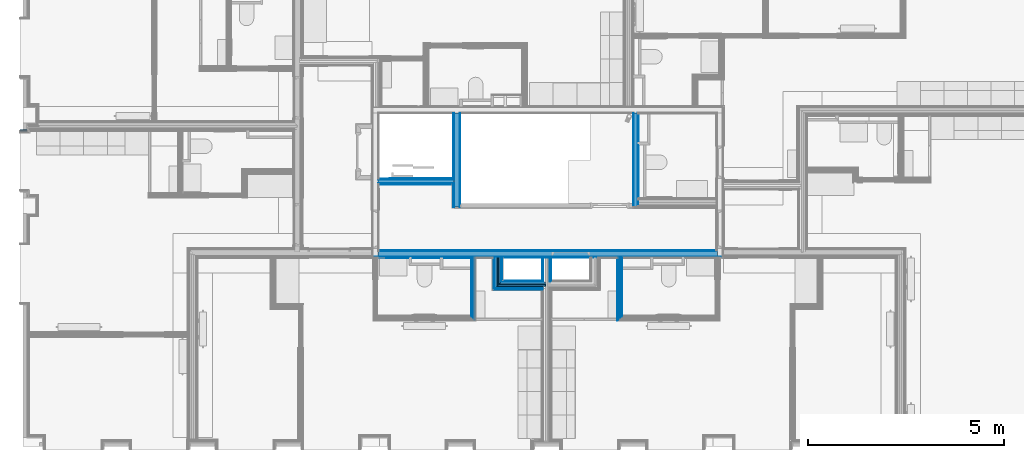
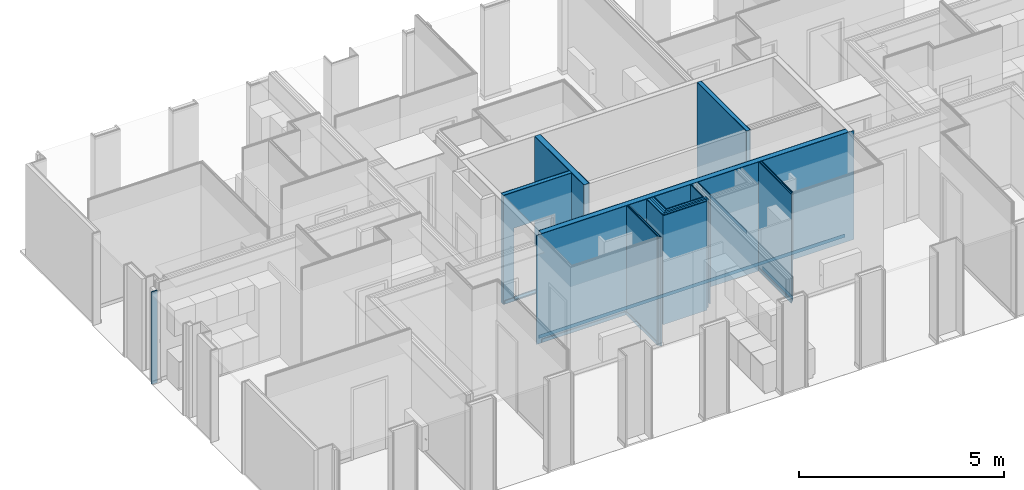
# One storey, part 12 of 64: 49 building element parts, 1 opening, 10 elements without a shape of their own.
"""IFC2X3 building model written with IfcOpenShell, lengths in metres."""

from ifc_helpers import new_model, entity, si_unit, converted_unit, derived_unit, money_unit, direction, frame, frame_2d, origin_with_axes, place, context, subcontext, project, spatial, polyline, rectangle, outline, extrude, material, type_object, element, aggregate, save


model = new_model("IFC2X3")

# Units and contexts
model_context = context("Model", 3, precision=1e-05, world=origin_with_axes(), true_north=direction((0.0, 1.0)))
body_context = subcontext(model_context, "Body", "Model", "MODEL_VIEW", scale=1.0)
ifc_project = project(units=[si_unit("LENGTHUNIT", "METRE"), si_unit("AREAUNIT", "SQUARE_METRE"), si_unit("VOLUMEUNIT", "CUBIC_METRE"), si_unit("ABSORBEDDOSEUNIT", "GRAY"), si_unit("AMOUNTOFSUBSTANCEUNIT", "MOLE"), si_unit("DOSEEQUIVALENTUNIT", "SIEVERT"), si_unit("ELECTRICCAPACITANCEUNIT", "FARAD"), si_unit("ELECTRICCHARGEUNIT", "COULOMB"), si_unit("ELECTRICCONDUCTANCEUNIT", "SIEMENS"), si_unit("ELECTRICCURRENTUNIT", "AMPERE"), si_unit("ELECTRICRESISTANCEUNIT", "OHM"), si_unit("ELECTRICVOLTAGEUNIT", "VOLT"), si_unit("ENERGYUNIT", "JOULE"), si_unit("FORCEUNIT", "NEWTON"), si_unit("FREQUENCYUNIT", "HERTZ"), si_unit("ILLUMINANCEUNIT", "LUX"), si_unit("INDUCTANCEUNIT", "HENRY"), si_unit("LUMINOUSFLUXUNIT", "LUMEN"), si_unit("LUMINOUSINTENSITYUNIT", "CANDELA"), si_unit("MAGNETICFLUXDENSITYUNIT", "TESLA"), si_unit("MAGNETICFLUXUNIT", "WEBER"), si_unit("MASSUNIT", "GRAM"), converted_unit("PLANEANGLEUNIT", "degree", entity("IfcReal", 0.0174532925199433), si_unit("PLANEANGLEUNIT", "RADIAN"), dimensions=[0, 0, 0, 0, 0, 0, 0]), si_unit("POWERUNIT", "WATT"), si_unit("PRESSUREUNIT", "PASCAL"), si_unit("RADIOACTIVITYUNIT", "BECQUEREL"), si_unit("SOLIDANGLEUNIT", "STERADIAN"), si_unit("THERMODYNAMICTEMPERATUREUNIT", "KELVIN"), si_unit("TIMEUNIT", "SECOND"), derived_unit("ACCELERATIONUNIT", [(si_unit("LENGTHUNIT", "METRE"), 1), (si_unit("TIMEUNIT", "SECOND"), -2)]), derived_unit("ANGULARVELOCITYUNIT", [(converted_unit("PLANEANGLEUNIT", "degree", entity("IfcReal", 0.0174532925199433), si_unit("PLANEANGLEUNIT", "RADIAN"), dimensions=[0, 0, 0, 0, 0, 0, 0]), 1), (si_unit("TIMEUNIT", "SECOND"), -1)]), derived_unit("CURVATUREUNIT", [(converted_unit("PLANEANGLEUNIT", "degree", entity("IfcReal", 0.0174532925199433), si_unit("PLANEANGLEUNIT", "RADIAN"), dimensions=[0, 0, 0, 0, 0, 0, 0]), 1), (si_unit("LENGTHUNIT", "METRE"), -1)]), derived_unit("DYNAMICVISCOSITYUNIT", [(si_unit("PRESSUREUNIT", "PASCAL"), 1), (si_unit("TIMEUNIT", "SECOND"), 1)]), derived_unit("HEATFLUXDENSITYUNIT", [(si_unit("POWERUNIT", "WATT"), 1), (si_unit("LENGTHUNIT", "METRE"), -2)]), derived_unit("HEATINGVALUEUNIT", [(si_unit("ENERGYUNIT", "JOULE"), 1), (si_unit("MASSUNIT", "GRAM"), -1)]), derived_unit("INTEGERCOUNTRATEUNIT", [(si_unit("TIMEUNIT", "SECOND"), -1)]), derived_unit("IONCONCENTRATIONUNIT", [(si_unit("MASSUNIT", "GRAM"), 1), (si_unit("VOLUMEUNIT", "CUBIC_METRE"), -1)]), derived_unit("ISOTHERMALMOISTURECAPACITYUNIT", [(si_unit("VOLUMEUNIT", "CUBIC_METRE"), 1), (si_unit("MASSUNIT", "GRAM"), -1)]), derived_unit("KINEMATICVISCOSITYUNIT", [(si_unit("AREAUNIT", "SQUARE_METRE"), 1), (si_unit("TIMEUNIT", "SECOND"), -1)]), derived_unit("LINEARFORCEUNIT", [(si_unit("FORCEUNIT", "NEWTON"), 1), (si_unit("LENGTHUNIT", "METRE"), -1)]), derived_unit("LINEARMOMENTUNIT", [(si_unit("FORCEUNIT", "NEWTON"), 1), (si_unit("LENGTHUNIT", "METRE"), -1)]), derived_unit("LINEARSTIFFNESSUNIT", [(si_unit("FORCEUNIT", "NEWTON"), 1), (si_unit("LENGTHUNIT", "METRE"), -1)]), derived_unit("LINEARVELOCITYUNIT", [(si_unit("LENGTHUNIT", "METRE"), 1), (si_unit("TIMEUNIT", "SECOND"), -1)]), derived_unit("LUMINOUSINTENSITYDISTRIBUTIONUNIT", [(si_unit("LUMINOUSINTENSITYUNIT", "CANDELA"), 1), (si_unit("LUMINOUSFLUXUNIT", "LUMEN"), -1)]), derived_unit("MASSDENSITYUNIT", [(si_unit("MASSUNIT", "GRAM"), 1), (si_unit("VOLUMEUNIT", "CUBIC_METRE"), -1)]), derived_unit("MASSFLOWRATEUNIT", [(si_unit("MASSUNIT", "GRAM"), 1), (si_unit("TIMEUNIT", "SECOND"), -1)]), derived_unit("MASSPERLENGTHUNIT", [(si_unit("MASSUNIT", "GRAM"), 1), (si_unit("LENGTHUNIT", "METRE"), -1)]), derived_unit("MODULUSOFELASTICITYUNIT", [(si_unit("FORCEUNIT", "NEWTON"), 1), (si_unit("AREAUNIT", "SQUARE_METRE"), -1)]), derived_unit("MODULUSOFLINEARSUBGRADEREACTIONUNIT", [(si_unit("FORCEUNIT", "NEWTON"), 1), (si_unit("LENGTHUNIT", "METRE"), -2)]), derived_unit("MODULUSOFROTATIONALSUBGRADEREACTIONUNIT", [(si_unit("FORCEUNIT", "NEWTON"), 1), (si_unit("LENGTHUNIT", "METRE"), 1)]), derived_unit("MODULUSOFSUBGRADEREACTIONUNIT", [(si_unit("FORCEUNIT", "NEWTON"), 1), (si_unit("VOLUMEUNIT", "CUBIC_METRE"), -1)]), derived_unit("MOISTUREDIFFUSIVITYUNIT", [(si_unit("VOLUMEUNIT", "CUBIC_METRE"), 1), (si_unit("TIMEUNIT", "SECOND"), -1)]), derived_unit("MOLECULARWEIGHTUNIT", [(si_unit("MASSUNIT", "GRAM"), 1), (si_unit("AMOUNTOFSUBSTANCEUNIT", "MOLE"), -1)]), derived_unit("PLANARFORCEUNIT", [(si_unit("FORCEUNIT", "NEWTON"), 1), (si_unit("LENGTHUNIT", "METRE"), -2)]), derived_unit("ROTATIONALFREQUENCYUNIT", [(si_unit("TIMEUNIT", "SECOND"), -1)]), derived_unit("ROTATIONALMASSUNIT", [(si_unit("MASSUNIT", "GRAM"), 1), (si_unit("LENGTHUNIT", "METRE"), 2)]), derived_unit("ROTATIONALSTIFFNESSUNIT", [(si_unit("FORCEUNIT", "NEWTON"), 1), (si_unit("LENGTHUNIT", "METRE"), 1), (converted_unit("PLANEANGLEUNIT", "degree", entity("IfcReal", 0.0174532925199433), si_unit("PLANEANGLEUNIT", "RADIAN"), dimensions=[0, 0, 0, 0, 0, 0, 0]), -1)]), derived_unit("SECTIONAREAINTEGRALUNIT", [(si_unit("LENGTHUNIT", "METRE"), 5)]), derived_unit("SECTIONMODULUSUNIT", [(si_unit("LENGTHUNIT", "METRE"), 3)]), derived_unit("SHEARMODULUSUNIT", [(si_unit("FORCEUNIT", "NEWTON"), 1), (si_unit("AREAUNIT", "SQUARE_METRE"), -1)]), derived_unit("SOUNDPOWERUNIT", [(si_unit("ENERGYUNIT", "JOULE"), 1), (si_unit("TIMEUNIT", "SECOND"), -1)]), derived_unit("SPECIFICHEATCAPACITYUNIT", [(si_unit("FORCEUNIT", "NEWTON"), 1), (si_unit("MASSUNIT", "GRAM"), -1), (si_unit("THERMODYNAMICTEMPERATUREUNIT", "KELVIN"), -1)]), derived_unit("TEMPERATUREGRADIENTUNIT", [(si_unit("THERMODYNAMICTEMPERATUREUNIT", "KELVIN"), 1), (si_unit("LENGTHUNIT", "METRE"), -1)]), derived_unit("THERMALADMITTANCEUNIT", [(si_unit("POWERUNIT", "WATT"), 1), (si_unit("AREAUNIT", "SQUARE_METRE"), -1), (si_unit("THERMODYNAMICTEMPERATUREUNIT", "KELVIN"), -1)]), derived_unit("THERMALCONDUCTANCEUNIT", [(si_unit("POWERUNIT", "WATT"), 1), (si_unit("LENGTHUNIT", "METRE"), -1), (si_unit("THERMODYNAMICTEMPERATUREUNIT", "KELVIN"), -1)]), derived_unit("THERMALEXPANSIONCOEFFICIENTUNIT", [(si_unit("THERMODYNAMICTEMPERATUREUNIT", "KELVIN"), -1)]), derived_unit("THERMALRESISTANCEUNIT", [(si_unit("AREAUNIT", "SQUARE_METRE"), 1), (si_unit("POWERUNIT", "WATT"), -1)]), derived_unit("THERMALTRANSMITTANCEUNIT", [(si_unit("POWERUNIT", "WATT"), 1), (si_unit("AREAUNIT", "SQUARE_METRE"), -1), (si_unit("THERMODYNAMICTEMPERATUREUNIT", "KELVIN"), -1)]), derived_unit("TORQUEUNIT", [(si_unit("FORCEUNIT", "NEWTON"), 1), (si_unit("LENGTHUNIT", "METRE"), 1)]), derived_unit("VAPORPERMEABILITYUNIT", [(si_unit("MASSUNIT", "GRAM"), 1), (si_unit("TIMEUNIT", "SECOND"), -1)]), derived_unit("VOLUMETRICFLOWRATEUNIT", [(si_unit("VOLUMEUNIT", "CUBIC_METRE"), 1), (si_unit("TIMEUNIT", "SECOND"), -1)]), derived_unit("WARPINGCONSTANTUNIT", [(si_unit("LENGTHUNIT", "METRE"), 6)]), derived_unit("WARPINGMOMENTUNIT", [(si_unit("FORCEUNIT", "NEWTON"), 1), (si_unit("LENGTHUNIT", "METRE"), 2)]), money_unit("GBP")], contexts=[model_context])

# Site, building, storey
site_placement = place(None, origin_with_axes())
site = spatial("IfcSite", under=ifc_project, at=site_placement, Name="Site", CompositionType="ELEMENT")
building_placement = place(site_placement, origin_with_axes())
building = spatial("IfcBuilding", under=site, at=building_placement, Name="Building01", CompositionType="ELEMENT")
storey_placement = place(building_placement, frame((0.0, 0.0, 8.64), z_axis=(0.0, 0.0, 1.0), x_axis=(1.0, 0.0, 0.0)))
storey = spatial("IfcBuildingStorey", under=building, at=storey_placement, Name="2F", CompositionType="ELEMENT", Elevation=8.64)

# Wall, opening, building element parts
wall_type_1 = type_object("IfcWallType", Name="SHE_A-Walls_Type04a_BlockworkWall_130mm", PredefinedType="NOTDEFINED")
wall_1_placement = place(storey_placement, frame((11.145, 6.965, 0.0), z_axis=(0.0, 0.0, 1.0), x_axis=(-1.0, 0.0, 0.0)))
wall_1 = element("IfcWall", 1, at=wall_1_placement, inside=storey, type_object=wall_type_1, Name="4A", ObjectType="SHE_A-Walls_Type04a_BlockworkWall_130mm")
opening_placement = place(wall_1_placement, frame((0.5, -0.03, 0.03), z_axis=(0.0, 0.0, 1.0), x_axis=(1.0, 0.0, 0.0)))
element("IfcOpeningElement", 2, at=opening_placement, cuts=wall_1, Name="Opening", ObjectType="Opening", context=body_context, shape_type="SweptSolid", body=[
    extrude(rectangle(XDim=1.133302, YDim=2.14, at=frame_2d((-0.566651, 1.07), x_axis=(-1.0, 0.0))), frame((0.0, 0.0, 0.0), z_axis=(0.0, 1.0, 0.0), x_axis=(-1.0, 0.0, 0.0)), (0.0, 0.0, 1.0), 0.16),
])
ifc_material_1 = material(Name="A_BSUK_Walls_Timber")
placement_1 = place(wall_1_placement, origin_with_axes())
building_element_part_1 = element("IfcBuildingElementPart", 3, at=placement_1, material=ifc_material_1, Name="1", context=body_context, shape_type="SweptSolid", body=[
    extrude(outline(polyline([(0.0, -0.015), (0.015, -0.03), (1.633302, -0.03), (1.633302, -0.015), (0.0, -0.015)])), frame((0.0, 0.0, 0.015), z_axis=(0.0, 0.0, 1.0), x_axis=(1.0, 0.0, 0.0)), (0.0, 0.0, 1.0), 0.1),
])
ifc_material_2 = material(Name="A_BSUK_WallInternal_Finishes_Plasterboard")
building_element_part_2 = element("IfcBuildingElementPart", 4, at=placement_1, material=ifc_material_2, Name="2", context=body_context, shape_type="SweptSolid", body=[
    extrude(outline(polyline([(1.93, 0.0), (0.0, 0.0), (0.015, -0.015), (1.93, -0.015), (1.93, 0.0)])), origin_with_axes(), (0.0, 0.0, 1.0), 3.24),
])
ifc_material_3 = material(Name="A_BSUK_WallsInternal_Block")
building_element_part_3 = element("IfcBuildingElementPart", 5, at=placement_1, material=ifc_material_3, Name="3", context=body_context, shape_type="SweptSolid", body=[
    extrude(rectangle(XDim=1.93, YDim=0.1, at=frame_2d((0.965, 0.05), x_axis=(-1.0, 0.0))), origin_with_axes(), (0.0, 0.0, 1.0), 3.24),
])
ifc_material_4 = material(Name="A_BSUK_WallInternal_Finishes_Plaster")
building_element_part_4 = element("IfcBuildingElementPart", 6, at=placement_1, material=ifc_material_4, Name="4", context=body_context, shape_type="SweptSolid", body=[
    extrude(outline(polyline([(1.93, 0.115), (0.015, 0.115), (0.0, 0.1), (1.93, 0.1), (1.93, 0.115)])), origin_with_axes(), (0.0, 0.0, 1.0), 3.24),
])
building_element_part_5 = element("IfcBuildingElementPart", 7, at=placement_1, material=ifc_material_1, Name="5", context=body_context, shape_type="SweptSolid", body=[
    extrude(outline(polyline([(1.9, 0.13), (0.03, 0.13), (0.015, 0.115), (1.9, 0.115), (1.9, 0.13)])), frame((0.0, 0.0, 0.015), z_axis=(0.0, 0.0, 1.0), x_axis=(1.0, 0.0, 0.0)), (0.0, 0.0, 1.0), 0.1),
])
aggregate(wall_1, [building_element_part_1, building_element_part_2, building_element_part_3, building_element_part_4, building_element_part_5])

# Wall, building element parts
wall_type_2 = type_object("IfcWallType", Name="SHE_A-Walls_Type03a_BlockworkWall_170mm", PredefinedType="NOTDEFINED")
wall_2_placement = place(storey_placement, frame((11.145, 6.263, 0.0), z_axis=(0.0, 0.0, 1.0), x_axis=(0.0, 1.0, 0.0)))
wall_2 = element("IfcWall", 8, at=wall_2_placement, inside=storey, type_object=wall_type_2, Name="4B", ObjectType="SHE_A-Walls_Type03a_BlockworkWall_170mm")
placement_2 = place(wall_2_placement, origin_with_axes())
building_element_part_6 = element("IfcBuildingElementPart", 9, at=placement_2, material=ifc_material_2, Name="2", context=body_context, shape_type="SweptSolid", body=[
    extrude(rectangle(XDim=2.387, YDim=0.015, at=frame_2d((1.1935, -0.1475), x_axis=(-1.0, 0.0))), origin_with_axes(), (0.0, 0.0, 1.0), 3.24),
])
building_element_part_7 = element("IfcBuildingElementPart", 10, at=placement_2, material=ifc_material_3, Name="3", context=body_context, shape_type="SweptSolid", body=[
    extrude(rectangle(XDim=2.402, YDim=0.14, at=frame_2d((1.201, -0.07), x_axis=(-1.0, 0.0))), origin_with_axes(), (0.0, 0.0, 1.0), 3.24),
])
building_element_part_8 = element("IfcBuildingElementPart", 11, at=placement_2, material=ifc_material_4, Name="4", context=body_context, shape_type="SweptSolid", body=[
    extrude(outline(polyline([(0.587, 0.015), (0.0, 0.015), (0.0, 0.0), (0.602, 0.0), (0.587, 0.015)])), origin_with_axes(), (0.0, 0.0, 1.0), 3.24),
])
building_element_part_9 = element("IfcBuildingElementPart", 12, at=placement_2, material=ifc_material_4, Name="5", context=body_context, shape_type="SweptSolid", body=[
    extrude(outline(polyline([(2.387, 0.015), (0.717, 0.015), (0.702, 0.0), (2.387, 0.0), (2.387, 0.015)])), origin_with_axes(), (0.0, 0.0, 1.0), 3.24),
])
aggregate(wall_2, [building_element_part_6, building_element_part_7, building_element_part_8, building_element_part_9])

wall_type_3 = type_object("IfcWallType", Name="SHE_A-Walls_Type01c_Partywall_225mm_twin_tall", PredefinedType="NOTDEFINED")
wall_3_placement = place(storey_placement, frame((12.288, 4.302428, 0.0), z_axis=(0.0, 0.0, 1.0), x_axis=(1.0, 0.0, 0.0)))
wall_3 = element("IfcWall", 13, at=wall_3_placement, inside=storey, type_object=wall_type_3, Name="1C", ObjectType="SHE_A-Walls_Type01c_Partywall_225mm_twin_tall")
placement_3 = place(wall_3_placement, origin_with_axes())
building_element_part_10 = element("IfcBuildingElementPart", 14, at=placement_3, material=ifc_material_2, Name="2", context=body_context, shape_type="SweptSolid", body=[
    extrude(outline(polyline([(1.0995, -0.123), (-0.123, -0.123), (-0.138, -0.138), (1.0995, -0.138), (1.0995, -0.123)])), origin_with_axes(), (0.0, 0.0, 1.0), 3.24),
])
building_element_part_11 = element("IfcBuildingElementPart", 15, at=placement_3, material=ifc_material_2, Name="3", context=body_context, shape_type="SweptSolid", body=[
    extrude(outline(polyline([(1.1145, -0.108), (-0.108, -0.108), (-0.123, -0.123), (1.1145, -0.123), (1.1145, -0.108)])), origin_with_axes(), (0.0, 0.0, 1.0), 3.24),
])
ifc_material_5 = material(Name="Air Cavity")
building_element_part_12 = element("IfcBuildingElementPart", 16, at=placement_3, material=ifc_material_5, Name="4", context=body_context, shape_type="SweptSolid", body=[
    extrude(outline(polyline([(1.1145, -0.05), (-0.05, -0.05), (-0.108, -0.108), (1.1145, -0.108), (1.1145, -0.05)])), origin_with_axes(), (0.0, 0.0, 1.0), 3.24),
])
ifc_material_6 = material(Name="A_BSUK_Insulation")
building_element_part_13 = element("IfcBuildingElementPart", 17, at=placement_3, material=ifc_material_6, Name="5", context=body_context, shape_type="SweptSolid", body=[
    extrude(outline(polyline([(1.1875, 0.0), (0.0, 0.0), (-0.05, -0.05), (1.1875, -0.05), (1.1875, 0.0)])), origin_with_axes(), (0.0, 0.0, 1.0), 3.24),
])
building_element_part_14 = element("IfcBuildingElementPart", 18, at=placement_3, material=ifc_material_5, Name="6", context=body_context, shape_type="SweptSolid", body=[
    extrude(outline(polyline([(1.1875, 0.057), (0.057, 0.057), (0.0, 0.0), (1.1875, 0.0), (1.1875, 0.057)])), origin_with_axes(), (0.0, 0.0, 1.0), 3.24),
])
building_element_part_15 = element("IfcBuildingElementPart", 19, at=placement_3, material=ifc_material_2, Name="7", context=body_context, shape_type="SweptSolid", body=[
    extrude(outline(polyline([(1.1145, 0.072), (0.072, 0.072), (0.057, 0.057), (1.1145, 0.057), (1.1145, 0.072)])), origin_with_axes(), (0.0, 0.0, 1.0), 3.24),
])
building_element_part_16 = element("IfcBuildingElementPart", 20, at=placement_3, material=ifc_material_2, Name="8", context=body_context, shape_type="SweptSolid", body=[
    extrude(outline(polyline([(1.1145, 0.087), (0.087, 0.087), (0.072, 0.072), (1.1145, 0.072), (1.1145, 0.087)])), origin_with_axes(), (0.0, 0.0, 1.0), 3.24),
])
aggregate(wall_3, [building_element_part_10, building_element_part_11, building_element_part_12, building_element_part_13, building_element_part_14, building_element_part_15, building_element_part_16])

wall_4_placement = place(storey_placement, frame((13.5005, 4.995, 0.0), z_axis=(0.0, 0.0, 1.0), x_axis=(0.0, -1.0, 0.0)))
wall_4 = element("IfcWall", 21, at=wall_4_placement, inside=storey, type_object=wall_type_3, Name="1C", ObjectType="SHE_A-Walls_Type01c_Partywall_225mm_twin_tall")
placement_4 = place(wall_4_placement, origin_with_axes())
building_element_part_17 = element("IfcBuildingElementPart", 22, at=placement_4, material=ifc_material_2, Name="2", context=body_context, shape_type="SweptSolid", body=[
    extrude(rectangle(XDim=0.590572, YDim=0.015, at=frame_2d((0.310286, -0.1055), x_axis=(-1.0, 0.0))), origin_with_axes(), (0.0, 0.0, 1.0), 3.24),
])
building_element_part_18 = element("IfcBuildingElementPart", 23, at=placement_4, material=ifc_material_2, Name="4", context=body_context, shape_type="SweptSolid", body=[
    extrude(rectangle(XDim=0.620572, YDim=0.015, at=frame_2d((0.325286, -0.0905), x_axis=(-1.0, 0.0))), origin_with_axes(), (0.0, 0.0, 1.0), 3.24),
])
building_element_part_19 = element("IfcBuildingElementPart", 24, at=placement_4, material=ifc_material_2, Name="9", context=body_context, shape_type="SweptSolid", body=[
    extrude(rectangle(XDim=0.620572, YDim=0.015, at=frame_2d((0.325286, 0.0895), x_axis=(-1.0, 0.0))), origin_with_axes(), (0.0, 0.0, 1.0), 3.24),
])
building_element_part_20 = element("IfcBuildingElementPart", 25, at=placement_4, material=ifc_material_2, Name="11", context=body_context, shape_type="SweptSolid", body=[
    extrude(rectangle(XDim=0.590572, YDim=0.015, at=frame_2d((0.310286, 0.1045), x_axis=(-1.0, 0.0))), origin_with_axes(), (0.0, 0.0, 1.0), 3.24),
])
aggregate(wall_4, [building_element_part_17, building_element_part_18, building_element_part_19, building_element_part_20])

wall_5_placement = place(storey_placement, frame((12.288, 4.98, 0.0), z_axis=(0.0, 0.0, 1.0), x_axis=(0.0, -1.0, 0.0)))
wall_5 = element("IfcWall", 26, at=wall_5_placement, inside=storey, type_object=wall_type_3, Name="1C", ObjectType="SHE_A-Walls_Type01c_Partywall_225mm_twin_tall")
placement_5 = place(wall_5_placement, origin_with_axes())
building_element_part_21 = element("IfcBuildingElementPart", 27, at=placement_5, material=ifc_material_2, Name="3", context=body_context, shape_type="SweptSolid", body=[
    extrude(outline(polyline([(0.800572, -0.123), (0.0, -0.123), (0.0, -0.138), (0.815572, -0.138), (0.800572, -0.123)])), origin_with_axes(), (0.0, 0.0, 1.0), 3.24),
])
building_element_part_22 = element("IfcBuildingElementPart", 28, at=placement_5, material=ifc_material_2, Name="4", context=body_context, shape_type="SweptSolid", body=[
    extrude(outline(polyline([(0.785572, -0.108), (0.0, -0.108), (0.0, -0.123), (0.800572, -0.123), (0.785572, -0.108)])), origin_with_axes(), (0.0, 0.0, 1.0), 3.24),
])
building_element_part_23 = element("IfcBuildingElementPart", 29, at=placement_5, material=ifc_material_5, Name="5", context=body_context, shape_type="SweptSolid", body=[
    extrude(outline(polyline([(0.727572, -0.05), (0.0, -0.05), (0.0, -0.108), (0.785572, -0.108), (0.727572, -0.05)])), origin_with_axes(), (0.0, 0.0, 1.0), 3.24),
])
building_element_part_24 = element("IfcBuildingElementPart", 30, at=placement_5, material=ifc_material_6, Name="6", context=body_context, shape_type="SweptSolid", body=[
    extrude(outline(polyline([(0.677572, 0.0), (0.0, 0.0), (0.0, -0.05), (0.727572, -0.05), (0.677572, 0.0)])), origin_with_axes(), (0.0, 0.0, 1.0), 3.24),
])
building_element_part_25 = element("IfcBuildingElementPart", 31, at=placement_5, material=ifc_material_5, Name="7", context=body_context, shape_type="SweptSolid", body=[
    extrude(outline(polyline([(0.620572, 0.057), (0.0, 0.057), (0.0, 0.0), (0.677572, 0.0), (0.620572, 0.057)])), origin_with_axes(), (0.0, 0.0, 1.0), 3.24),
])
building_element_part_26 = element("IfcBuildingElementPart", 32, at=placement_5, material=ifc_material_2, Name="8", context=body_context, shape_type="SweptSolid", body=[
    extrude(outline(polyline([(0.605572, 0.072), (0.0, 0.072), (0.0, 0.057), (0.620572, 0.057), (0.605572, 0.072)])), origin_with_axes(), (0.0, 0.0, 1.0), 3.24),
])
building_element_part_27 = element("IfcBuildingElementPart", 33, at=placement_5, material=ifc_material_2, Name="9", context=body_context, shape_type="SweptSolid", body=[
    extrude(outline(polyline([(0.590572, 0.087), (0.0, 0.087), (0.0, 0.072), (0.605572, 0.072), (0.590572, 0.087)])), origin_with_axes(), (0.0, 0.0, 1.0), 3.24),
])
aggregate(wall_5, [building_element_part_21, building_element_part_22, building_element_part_23, building_element_part_24, building_element_part_25, building_element_part_26, building_element_part_27])

wall_6_placement = place(storey_placement, frame((15.715, 8.665, 0.0), z_axis=(0.0, 0.0, 1.0), x_axis=(0.0, -1.0, 0.0)))
wall_6 = element("IfcWall", 34, at=wall_6_placement, inside=storey, type_object=wall_type_1, Name="4A", ObjectType="SHE_A-Walls_Type04a_BlockworkWall_130mm")
placement_6 = place(wall_6_placement, origin_with_axes())
building_element_part_28 = element("IfcBuildingElementPart", 35, at=placement_6, material=ifc_material_2, Name="2", context=body_context, shape_type="SweptSolid", body=[
    extrude(rectangle(XDim=2.385, YDim=0.015, at=frame_2d((1.2075, -0.0075), x_axis=(-1.0, 0.0))), origin_with_axes(), (0.0, 0.0, 1.0), 3.24),
])
building_element_part_29 = element("IfcBuildingElementPart", 36, at=placement_6, material=ifc_material_3, Name="3", context=body_context, shape_type="SweptSolid", body=[
    extrude(rectangle(XDim=0.1, YDim=2.4, at=frame_2d((1.2, 0.05), x_axis=(0.0, -1.0))), origin_with_axes(), (0.0, 0.0, 1.0), 3.24),
])
building_element_part_30 = element("IfcBuildingElementPart", 37, at=placement_6, material=ifc_material_4, Name="4", context=body_context, shape_type="SweptSolid", body=[
    extrude(rectangle(XDim=0.015, YDim=2.4, at=frame_2d((1.2, 0.1075), x_axis=(0.0, -1.0))), origin_with_axes(), (0.0, 0.0, 1.0), 3.24),
])
building_element_part_31 = element("IfcBuildingElementPart", 38, at=placement_6, material=ifc_material_1, Name="5", context=body_context, shape_type="SweptSolid", body=[
    extrude(outline(polyline([(2.19, 0.13), (0.03, 0.13), (0.03, 0.115), (2.205, 0.115), (2.19, 0.13)])), frame((0.0, 0.0, 0.015), z_axis=(0.0, 0.0, 1.0), x_axis=(1.0, 0.0, 0.0)), (0.0, 0.0, 1.0), 0.1),
])
aggregate(wall_6, [building_element_part_28, building_element_part_29, building_element_part_30, building_element_part_31])

wall_type_4 = type_object("IfcWallType", Name="SHE_A-Walls_Type05a_Partition_95mm_tall", PredefinedType="NOTDEFINED")
wall_7_placement = place(storey_placement, frame((15.3475, 3.42, 0.0), z_axis=(0.0, 0.0, 1.0), x_axis=(0.0, 1.0, 0.0)))
wall_7 = element("IfcWall", 39, at=wall_7_placement, inside=storey, type_object=wall_type_4, Name="5A", ObjectType="SHE_A-Walls_Type05a_Partition_95mm_tall")
placement_7 = place(wall_7_placement, origin_with_axes())
building_element_part_32 = element("IfcBuildingElementPart", 40, at=placement_7, material=ifc_material_1, Name="1", context=body_context, shape_type="SweptSolid", body=[
    extrude(outline(polyline([(1.545, -0.06), (0.06, -0.06), (0.075, -0.075), (1.545, -0.075), (1.545, -0.06)])), frame((0.0, 0.0, 0.015), z_axis=(0.0, 0.0, 1.0), x_axis=(1.0, 0.0, 0.0)), (0.0, 0.0, 1.0), 0.1),
])
building_element_part_33 = element("IfcBuildingElementPart", 41, at=placement_7, material=ifc_material_2, Name="2", context=body_context, shape_type="SweptSolid", body=[
    extrude(outline(polyline([(1.56, -0.048), (0.048, -0.048), (0.06, -0.06), (1.56, -0.06), (1.56, -0.048)])), origin_with_axes(), (0.0, 0.0, 1.0), 3.24),
])
building_element_part_34 = element("IfcBuildingElementPart", 42, at=placement_7, material=ifc_material_5, Name="3", context=body_context, shape_type="SweptSolid", body=[
    extrude(outline(polyline([(1.56, -0.025), (0.025, -0.025), (0.048, -0.048), (1.56, -0.048), (1.56, -0.025)])), origin_with_axes(), (0.0, 0.0, 1.0), 3.24),
])
building_element_part_35 = element("IfcBuildingElementPart", 43, at=placement_7, material=ifc_material_6, Name="4", context=body_context, shape_type="SweptSolid", body=[
    extrude(outline(polyline([(1.56, 0.0), (0.0, 0.0), (0.025, -0.025), (1.56, -0.025), (1.56, 0.0)])), origin_with_axes(), (0.0, 0.0, 1.0), 3.24),
])
building_element_part_36 = element("IfcBuildingElementPart", 44, at=placement_7, material=ifc_material_5, Name="5", context=body_context, shape_type="SweptSolid", body=[
    extrude(outline(polyline([(1.56, 0.023), (-0.023, 0.023), (0.0, 0.0), (1.56, 0.0), (1.56, 0.023)])), origin_with_axes(), (0.0, 0.0, 1.0), 3.24),
])
building_element_part_37 = element("IfcBuildingElementPart", 45, at=placement_7, material=ifc_material_2, Name="6", context=body_context, shape_type="SweptSolid", body=[
    extrude(outline(polyline([(1.56, 0.035), (-0.035, 0.035), (-0.023, 0.023), (1.56, 0.023), (1.56, 0.035)])), origin_with_axes(), (0.0, 0.0, 1.0), 3.24),
])
building_element_part_38 = element("IfcBuildingElementPart", 46, at=placement_7, material=ifc_material_1, Name="7", context=body_context, shape_type="SweptSolid", body=[
    extrude(outline(polyline([(1.545, 0.05), (-0.05, 0.05), (-0.035, 0.035), (1.545, 0.035), (1.545, 0.05)])), frame((0.0, 0.0, 0.015), z_axis=(0.0, 0.0, 1.0), x_axis=(1.0, 0.0, 0.0)), (0.0, 0.0, 1.0), 0.1),
])
aggregate(wall_7, [building_element_part_32, building_element_part_33, building_element_part_34, building_element_part_35, building_element_part_36, building_element_part_37, building_element_part_38])

wall_8_placement = place(storey_placement, frame((11.652536, 3.42, 0.0), z_axis=(0.0, 0.0, 1.0), x_axis=(0.0, -1.0, 0.0)))
wall_8 = element("IfcWall", 47, at=wall_8_placement, inside=storey, type_object=wall_type_4, Name="5A", ObjectType="SHE_A-Walls_Type05a_Partition_95mm_tall")
placement_8 = place(wall_8_placement, origin_with_axes())
building_element_part_39 = element("IfcBuildingElementPart", 48, at=placement_8, material=ifc_material_1, Name="1", context=body_context, shape_type="SweptSolid", body=[
    extrude(outline(polyline([(-1.545, -0.075), (-0.075, -0.075), (-0.06, -0.06), (-1.545, -0.06), (-1.545, -0.075)])), frame((0.0, 0.0, 0.015), z_axis=(0.0, 0.0, 1.0), x_axis=(1.0, 0.0, 0.0)), (0.0, 0.0, 1.0), 0.1),
])
building_element_part_40 = element("IfcBuildingElementPart", 49, at=placement_8, material=ifc_material_2, Name="2", context=body_context, shape_type="SweptSolid", body=[
    extrude(outline(polyline([(-1.56, -0.06), (-0.06, -0.06), (-0.048, -0.048), (-1.56, -0.048), (-1.56, -0.06)])), origin_with_axes(), (0.0, 0.0, 1.0), 3.24),
])
building_element_part_41 = element("IfcBuildingElementPart", 50, at=placement_8, material=ifc_material_5, Name="3", context=body_context, shape_type="SweptSolid", body=[
    extrude(outline(polyline([(-1.56, -0.048), (-0.048, -0.048), (-0.025, -0.025), (-1.56, -0.025), (-1.56, -0.048)])), origin_with_axes(), (0.0, 0.0, 1.0), 3.24),
])
building_element_part_42 = element("IfcBuildingElementPart", 51, at=placement_8, material=ifc_material_6, Name="4", context=body_context, shape_type="SweptSolid", body=[
    extrude(outline(polyline([(-1.56, -0.025), (-0.025, -0.025), (0.0, 0.0), (-1.56, 0.0), (-1.56, -0.025)])), origin_with_axes(), (0.0, 0.0, 1.0), 3.24),
])
building_element_part_43 = element("IfcBuildingElementPart", 52, at=placement_8, material=ifc_material_5, Name="5", context=body_context, shape_type="SweptSolid", body=[
    extrude(outline(polyline([(-1.56, 0.0), (0.0, 0.0), (0.023, 0.023), (-1.56, 0.023), (-1.56, 0.0)])), origin_with_axes(), (0.0, 0.0, 1.0), 3.24),
])
aggregate(wall_8, [building_element_part_39, building_element_part_40, building_element_part_41, building_element_part_42, building_element_part_43])

wall_9_placement = place(storey_placement, frame((9.215, 4.995, 0.0), z_axis=(0.0, 0.0, 1.0), x_axis=(1.0, 0.0, 0.0)))
wall_9 = element("IfcWall", 53, at=wall_9_placement, inside=storey, type_object=wall_type_2, Name="4B", ObjectType="SHE_A-Walls_Type03a_BlockworkWall_170mm")
placement_9 = place(wall_9_placement, origin_with_axes())
building_element_part_44 = element("IfcBuildingElementPart", 54, at=placement_9, material=ifc_material_1, Name="4", context=body_context, shape_type="SweptSolid", body=[
    extrude(rectangle(XDim=2.385, YDim=0.015, at=frame_2d((1.185036, -0.0225), x_axis=(-1.0, 0.0))), frame((0.0, 0.0, 0.015), z_axis=(0.0, 0.0, 1.0), x_axis=(1.0, 0.0, 0.0)), (0.0, 0.0, 1.0), 0.1),
])
building_element_part_45 = element("IfcBuildingElementPart", 55, at=placement_9, material=ifc_material_2, Name="7", context=body_context, shape_type="SweptSolid", body=[
    extrude(rectangle(XDim=8.925, YDim=0.015, at=frame_2d((4.3075, -0.0075), x_axis=(-1.0, 0.0))), origin_with_axes(), (0.0, 0.0, 1.0), 3.24),
])
building_element_part_46 = element("IfcBuildingElementPart", 56, at=placement_9, material=ifc_material_3, Name="8", context=body_context, shape_type="SweptSolid", body=[
    extrude(rectangle(XDim=8.63, YDim=0.14, at=frame_2d((4.315, 0.07), x_axis=(-1.0, 0.0))), origin_with_axes(), (0.0, 0.0, 1.0), 3.24),
])
building_element_part_47 = element("IfcBuildingElementPart", 57, at=placement_9, material=ifc_material_4, Name="9", context=body_context, shape_type="SweptSolid", body=[
    extrude(rectangle(XDim=8.615, YDim=0.015, at=frame_2d((4.3225, 0.1475), x_axis=(-1.0, 0.0))), origin_with_axes(), (0.0, 0.0, 1.0), 3.24),
])
building_element_part_48 = element("IfcBuildingElementPart", 58, at=placement_9, material=ifc_material_1, Name="10", context=body_context, shape_type="SweptSolid", body=[
    extrude(rectangle(XDim=8.6, YDim=0.015, at=frame_2d((4.315, 0.1625), x_axis=(-1.0, 0.0))), frame((0.0, 0.0, 0.015), z_axis=(0.0, 0.0, 1.0), x_axis=(1.0, 0.0, 0.0)), (0.0, 0.0, 1.0), 0.1),
])
aggregate(wall_9, [building_element_part_44, building_element_part_45, building_element_part_46, building_element_part_47, building_element_part_48])

# Wall, building element part
wall_type_5 = type_object("IfcWallType", Name="SHE_A-Walls_Type06f_ExternalWallInsulation_48+15mm", PredefinedType="NOTDEFINED")
wall_10_placement = place(storey_placement, frame((0.27, 8.233, 0.0), z_axis=(0.0, 0.0, 1.0), x_axis=(-1.0, 0.0, 0.0)))
wall_10 = element("IfcWall", 59, at=wall_10_placement, inside=storey, type_object=wall_type_5, Name="6F", ObjectType="SHE_A-Walls_Type06f_ExternalWallInsulation_48+15mm")
building_element_part_49_placement = place(wall_10_placement, origin_with_axes())
building_element_part_49 = element("IfcBuildingElementPart", 60, at=building_element_part_49_placement, material=ifc_material_6, Name="1", context=body_context, shape_type="SweptSolid", body=[
    extrude(rectangle(XDim=0.17, YDim=0.036, at=frame_2d((0.085, 0.018), x_axis=(-1.0, 0.0))), origin_with_axes(), (0.0, 0.0, 1.0), 2.74),
])
aggregate(wall_10, [building_element_part_49])

save(model, "model.ifc")
